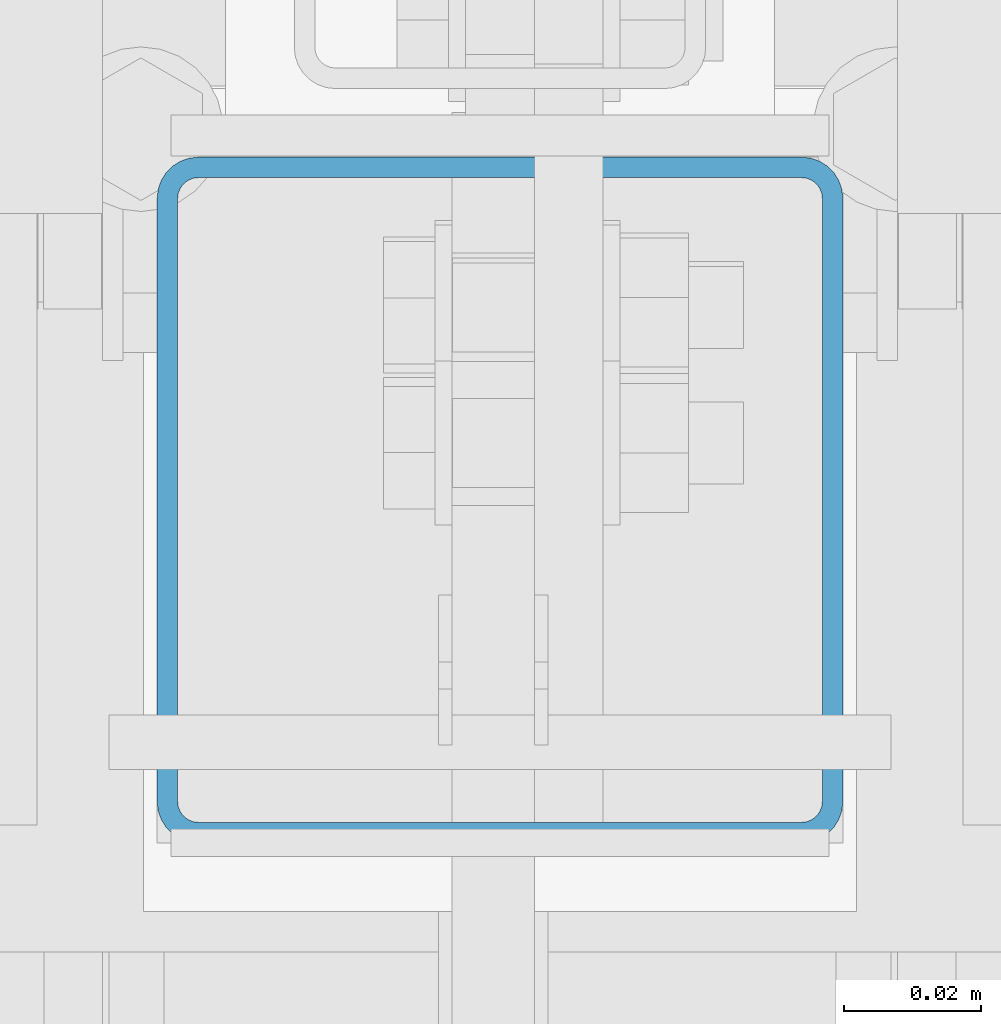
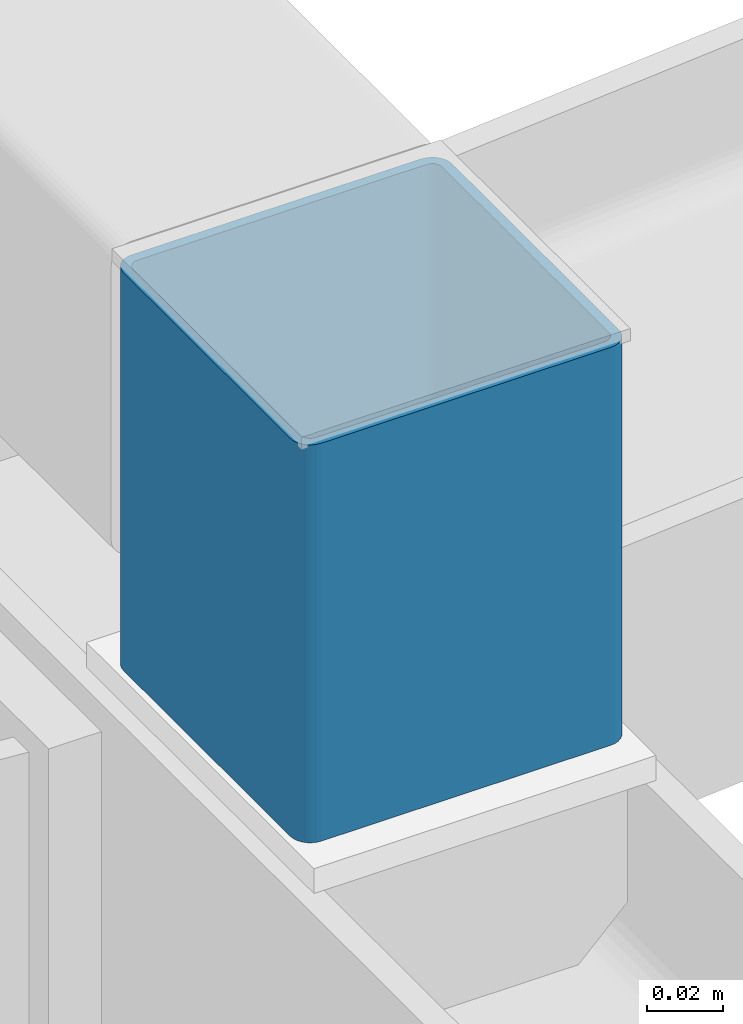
# One storey, part 73 of 271: 1 beam, 1 element without a shape of its own.
"""IFC2X3 building model written with IfcOpenShell, lengths in millimetres."""

from ifc_helpers import new_model, si_unit, frame, origin_with_axes, origin_2d_with_axis, place, context, subcontext, project, spatial, hollow_rectangle, extrude, clip, halfspace, material, type_object, element, aggregate, save


model = new_model("IFC2X3")

# Units and contexts
model_context = context("Model", 3, precision=1e-05, world=origin_with_axes())
body_context = subcontext(model_context, "Body", "Model", "MODEL_VIEW")
ifc_project = project(units=[si_unit("LENGTHUNIT", "METRE", prefix="MILLI"), si_unit("AREAUNIT", "SQUARE_METRE"), si_unit("VOLUMEUNIT", "CUBIC_METRE"), si_unit("MASSUNIT", "GRAM", prefix="KILO"), si_unit("TIMEUNIT", "SECOND"), si_unit("PLANEANGLEUNIT", "RADIAN"), si_unit("SOLIDANGLEUNIT", "STERADIAN"), si_unit("THERMODYNAMICTEMPERATUREUNIT", "DEGREE_CELSIUS"), si_unit("LUMINOUSINTENSITYUNIT", "LUMEN")], contexts=[model_context])

# Site, building, storey
site_placement = place(None, origin_with_axes())
site = spatial("IfcSite", under=ifc_project, at=site_placement, Name="Undefined", CompositionType="ELEMENT")
building_placement = place(site_placement, origin_with_axes())
building = spatial("IfcBuilding", under=site, at=building_placement, Name="Undefined", CompositionType="ELEMENT")
storey_placement = place(building_placement, origin_with_axes())
storey = spatial("IfcBuildingStorey", under=building, at=storey_placement, Name="Undefined", CompositionType="ELEMENT", Elevation=0.0)

# Assembly, beam
assembly_placement = place(storey_placement, origin_with_axes())
assembly = element("IfcElementAssembly", 1, at=assembly_placement, inside=storey, AssemblyPlace="NOTDEFINED", PredefinedType="RIGID_FRAME")
ifc_material = material(Name="STEEL/S355JR")
beam_type = type_object("IfcBeamType", Name="SHS100*3", PredefinedType="NOTDEFINED")
beam_placement = place(assembly_placement, frame((6348.37568736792, 3614.92439872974, 20204.3499999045), z_axis=(0.0, 1.0, 0.0), x_axis=(0.0, 0.0, -1.0)))
beam = element("IfcBeam", 2, at=beam_placement, type_object=beam_type, material=ifc_material, Name="TĘŻNIK", ObjectType="SHS100*3", context=body_context, shape_type="Clipping", body=[
    clip(extrude(hollow_rectangle(XDim=100.0, YDim=100.0, WallThickness=3.0, InnerFilletRadius=3.0, OuterFilletRadius=6.0, at=origin_2d_with_axis()), frame((132.0, 0.0, 0.0), z_axis=(-1.0, 0.0, 1.38777878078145e-17), x_axis=(0.0, -1.0, 0.0)), (0.0, 0.0, 1.0), 132.0), halfspace(frame((4.0, 0.0, -50.0), z_axis=(1.0, 0.0, 0.0), x_axis=(0.0, -1.0, 0.0)), True)),
])
aggregate(assembly, [beam])

save(model, "model.ifc")
